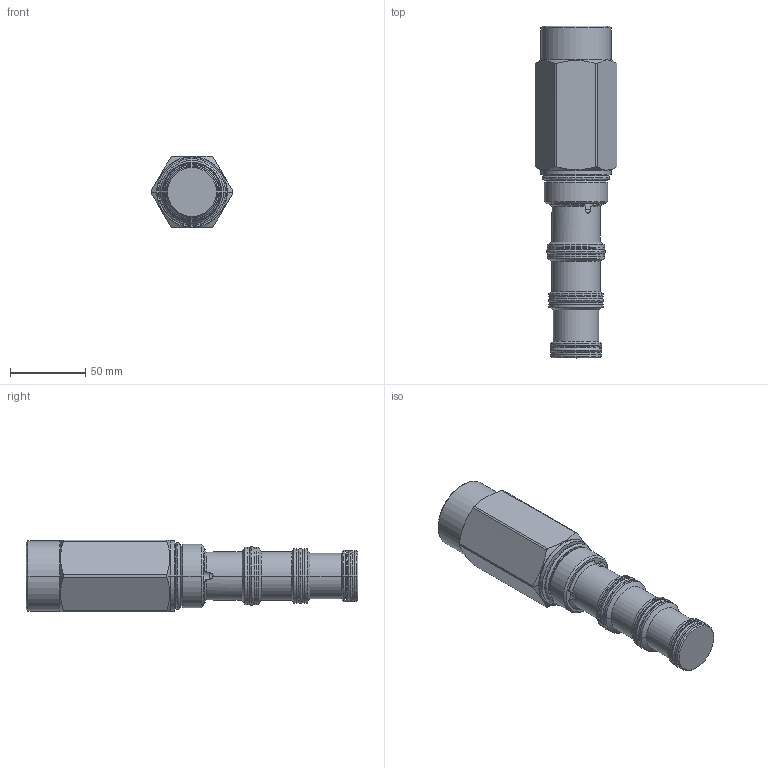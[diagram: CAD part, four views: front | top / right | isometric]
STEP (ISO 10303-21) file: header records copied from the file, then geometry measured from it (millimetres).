
FILE_DESCRIPTION((''),'2;1');
FILE_NAME('5267100_SW0001','2009-02-09T',('jcs'),(''),'PRO/ENGINEER BY PARAMETRIC TECHNOLOGY CORPORATION, 2008010','PRO/ENGINEER BY PARAMETRIC TECHNOLOGY CORPORATION, 2008010','');
FILE_SCHEMA(('CONFIG_CONTROL_DESIGN'));
Length unit declared in the file: inch
Products named in the file (1): 5267100_SW0001
Bounding box: 54.23 x 220.27 x 47.63 mm (x, y, z)
Volume: 298723.2 mm3; surface area: 40182.8 mm2
Topology: 4 solids, 4 shells, 184 faces, 422 edges, 252 vertices
Faces by surface type: cylinder 68, plane 36, revolution 32, cone 25, torus 20, sphere 3
Entity records: 5861 total; most frequent: CARTESIAN_POINT 1633, DIRECTION 913, ORIENTED_EDGE 844, EDGE_CURVE 422, AXIS2_PLACEMENT_3D 384, VERTEX_POINT 252, CIRCLE 232, EDGE_LOOP 196
